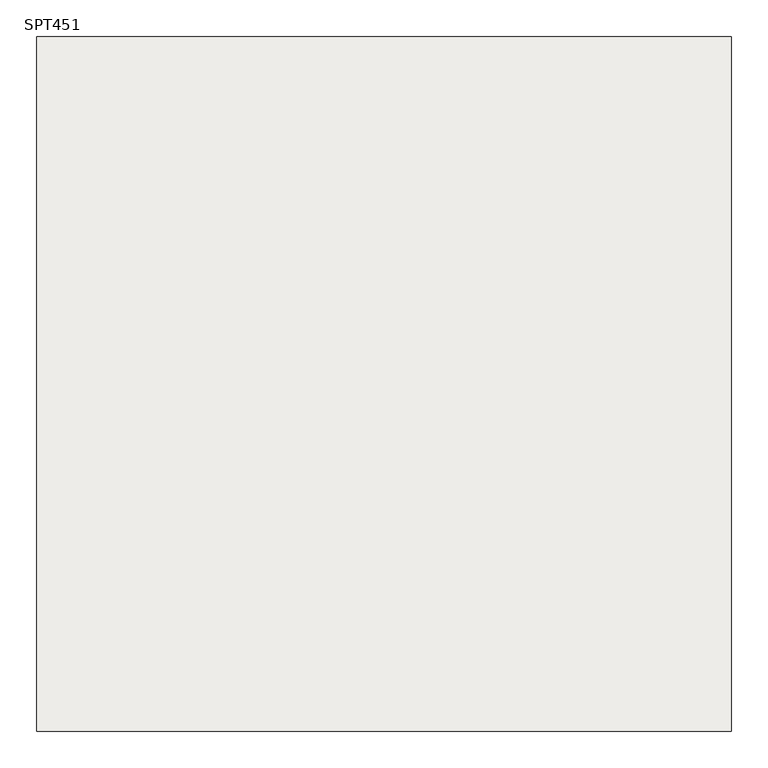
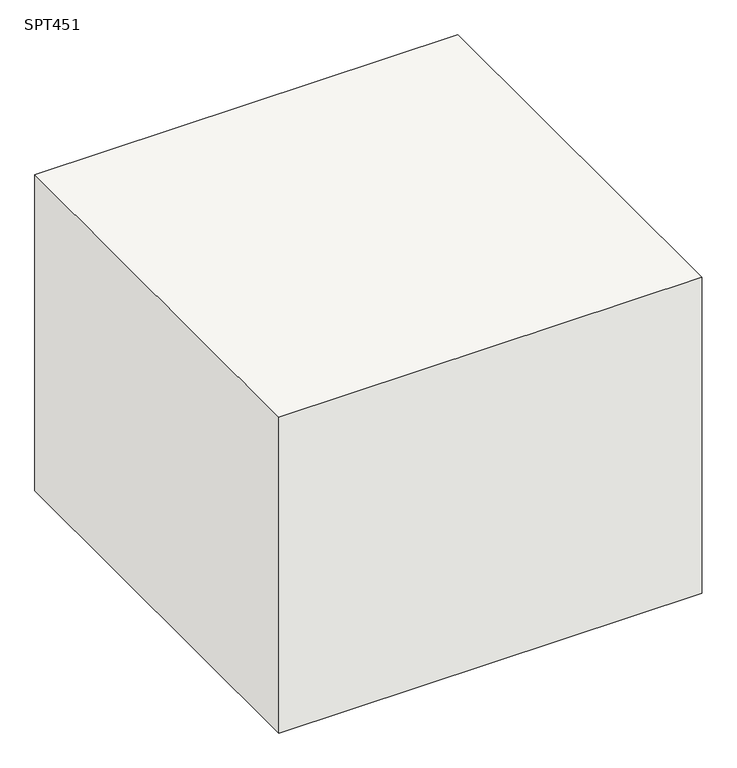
"""IFC4 building model written with IfcOpenShell, lengths in millimetres: slab geometry, 柱形_SPT : SPT451."""

import ifcopenshell
import ifcopenshell.guid

model = None  # the IFC model being written
_history = None  # IfcOwnerHistory: only IFC2X3 demands one
_inside = {}  # id of a spatial element -> (the spatial element, [elements in it])
_under = {}  # id of a project, library or spatial element -> (it, [spatial elements below it])
_declared = {}  # id of a project -> (the project, [libraries it declares])
_typed = {}  # id of a type object -> (the type object, [elements of that type])
_made_of = {}  # id of a material, layer set ... -> (it, [elements and type objects made of it])


def new_model(schema):
    """Start an empty IFC model of exactly this schema.

    Asked for "IFC4X3", IfcOpenShell would pick the latest addendum, in which some entities
    have other attributes; the version numbers below select the first issue.
    IFC2X3 requires an IfcOwnerHistory on every rooted entity: one is made here for all.
    """
    global model, _history
    if schema == "IFC4X3":
        model = ifcopenshell.file(schema_version=(4, 3, 0, 0))
    else:
        model = ifcopenshell.file(schema=schema)
    _inside.clear()
    _under.clear()
    _declared.clear()
    _typed.clear()
    _made_of.clear()
    _history = None
    if model.schema == "IFC2X3":
        org = make("IfcOrganization", Name="unknown")
        user = make(
            "IfcPersonAndOrganization",
            ThePerson=make("IfcPerson", FamilyName="unknown"),
            TheOrganization=org,
        )
        app = make(
            "IfcApplication",
            ApplicationDeveloper=org,
            Version="unknown",
            ApplicationFullName="unknown",
            ApplicationIdentifier="unknown",
        )
        _history = make(
            "IfcOwnerHistory",
            OwningUser=user,
            OwningApplication=app,
            ChangeAction="ADDED",
            CreationDate=0,
        )
    return model


def make(cls, **values):
    """One entity of the class cls with the attributes given. An attribute that is None is left unset."""
    return model.create_entity(
        cls, **{name: value for name, value in values.items() if value is not None}
    )


def rooted(cls, **values):
    """An entity with a GlobalId (a new one), such as an element, a storey or a relation."""
    return make(cls, GlobalId=ifcopenshell.guid.new(), OwnerHistory=_history, **values)


def si_unit(unit_type, name, prefix=None):
    """IfcSIUnit, for example si_unit("LENGTHUNIT", "METRE", prefix="MILLI")."""
    return make("IfcSIUnit", UnitType=unit_type, Prefix=prefix, Name=name)


def assignment(units):
    """IfcUnitAssignment: the units of a project."""
    return None if units is None else make("IfcUnitAssignment", Units=units)


def point(xyz):
    """IfcCartesianPoint."""
    return None if xyz is None else make("IfcCartesianPoint", Coordinates=xyz)


def direction(xyz):
    """IfcDirection."""
    return None if xyz is None else make("IfcDirection", DirectionRatios=xyz)


def frame(location, z_axis=None, x_axis=None):
    """IfcAxis2Placement3D, a coordinate frame: its origin and axes. An axis left out is left unset."""
    return make(
        "IfcAxis2Placement3D",
        Location=point(location),
        Axis=direction(z_axis),
        RefDirection=direction(x_axis),
    )


def origin():
    """The frame at (0, 0, 0) with its axes left unset."""
    return frame((0.0, 0.0, 0.0))


def place(relative_to, where):
    """IfcLocalPlacement: puts the frame where relative to a parent placement (None: the world)."""
    return make(
        "IfcLocalPlacement", PlacementRelTo=relative_to, RelativePlacement=where
    )


def context(
    kind, dimensions, precision=None, world=None, true_north=None, identifier=None
):
    """IfcGeometricRepresentationContext, for example the 3D "Model" context."""
    return make(
        "IfcGeometricRepresentationContext",
        ContextIdentifier=identifier,
        ContextType=kind,
        CoordinateSpaceDimension=dimensions,
        Precision=precision,
        WorldCoordinateSystem=world,
        TrueNorth=true_north,
    )


def project(units=None, contexts=None):
    """IfcProject with its units and contexts."""
    return rooted(
        "IfcProject",
        Name="project",
        RepresentationContexts=contexts,
        UnitsInContext=assignment(units),
    )


def spatial(cls, under=None, at=None, **own):
    """A site, building, storey or space (cls), placed at a placement, below another one or the project."""
    s = rooted(cls, ObjectPlacement=at, **own)
    if under is not None:
        _under.setdefault(under.id(), (under, []))[1].append(s)
    return s


def polyline(points):
    """IfcPolyline through the points."""
    return make("IfcPolyline", Points=[point(p) for p in points])


def outline(outer, holes=None, kind="AREA"):
    """IfcArbitraryClosedProfileDef: a profile drawn as a closed curve; with holes, ...WithVoids."""
    if holes is None:
        return make("IfcArbitraryClosedProfileDef", ProfileType=kind, OuterCurve=outer)
    return make(
        "IfcArbitraryProfileDefWithVoids",
        ProfileType=kind,
        OuterCurve=outer,
        InnerCurves=holes,
    )


def extrude(swept, where, along, depth):
    """IfcExtrudedAreaSolid: the profile swept, set in the frame where, extruded along a direction by depth."""
    return make(
        "IfcExtrudedAreaSolid",
        SweptArea=swept,
        Position=where,
        ExtrudedDirection=direction(along),
        Depth=depth,
    )


def shape(context_of_items, identifier, shape_type, items):
    """IfcShapeRepresentation: the items that make up one representation, for example the "Body"."""
    return make(
        "IfcShapeRepresentation",
        ContextOfItems=context_of_items,
        RepresentationIdentifier=identifier,
        RepresentationType=shape_type,
        Items=items,
    )


def source(mapping_origin, context_of_items, identifier, shape_type, items):
    """IfcRepresentationMap: a shape defined once, which mapped items show again and again."""
    return make(
        "IfcRepresentationMap",
        MappingOrigin=mapping_origin,
        MappedRepresentation=shape(context_of_items, identifier, shape_type, items),
    )


def transform(
    local_origin,
    x_axis=None,
    y_axis=None,
    z_axis=None,
    scale=None,
    scale2=None,
    scale3=None,
    uniform=True,
):
    """IfcCartesianTransformationOperator3D, or its non-uniform kind. x_axis, y_axis, z_axis: its Axis1, 2, 3."""
    if uniform:
        return make(
            "IfcCartesianTransformationOperator3D",
            Axis1=direction(x_axis),
            Axis2=direction(y_axis),
            LocalOrigin=point(local_origin),
            Scale=scale,
            Axis3=direction(z_axis),
        )
    return make(
        "IfcCartesianTransformationOperator3DnonUniform",
        Axis1=direction(x_axis),
        Axis2=direction(y_axis),
        LocalOrigin=point(local_origin),
        Scale=scale,
        Axis3=direction(z_axis),
        Scale2=scale2,
        Scale3=scale3,
    )


def mapped(mapping_source, mapping_target):
    """IfcMappedItem: shows the shape of a source again, moved by a transform."""
    return make(
        "IfcMappedItem", MappingSource=mapping_source, MappingTarget=mapping_target
    )


def made_of(thing, what):
    """Note that an element or type object is made of a material, layer set ...; save() writes the relation."""
    if what is not None:
        _made_of.setdefault(what.id(), (what, []))[1].append(thing)
    return thing


def element(
    cls,
    number,
    at=None,
    inside=None,
    cuts=None,
    type_object=None,
    material=None,
    context=None,
    identifier="Body",
    shape_type=None,
    held_by="IfcProductDefinitionShape",
    body=None,
    shapes=None,
    **own,
):
    """One element of the class cls, such as IfcWall. Its Tag is "e" and its number.

    at: its placement. inside: the storey or other place that contains it. cuts: it is an
    opening in that element (IfcRelVoidsElement). A single representation is given by context,
    identifier, shape_type and body (its items); several are given by shapes. held_by: the class
    of the entity that holds the representations. save() writes the other relations.
    """
    e = rooted(cls, Tag="e%d" % number, ObjectPlacement=at, **own)
    if body is not None:
        shapes = [shape(context, identifier, shape_type, body)]
    if shapes is not None:
        e.Representation = make(held_by, Representations=shapes)
    if inside is not None:
        _inside.setdefault(inside.id(), (inside, []))[1].append(e)
    if cuts is not None:
        rooted(
            "IfcRelVoidsElement", RelatingBuildingElement=cuts, RelatedOpeningElement=e
        )
    if type_object is not None:
        _typed.setdefault(type_object.id(), (type_object, []))[1].append(e)
    return made_of(e, material)


def aggregate(whole, parts):
    """IfcRelAggregates: a whole, such as a stair, and the parts it consists of."""
    return rooted("IfcRelAggregates", RelatingObject=whole, RelatedObjects=parts)


def save(model, path):
    """Write the relations noted so far, then the file.

    IfcRelAggregates (storeys below a building ...), IfcRelContainedInSpatialStructure (elements
    in a storey), IfcRelDefinesByType, IfcRelAssociatesMaterial and IfcRelDeclares: one each for
    every whole, place, type object, material and project.
    """
    for whole, parts in _under.values():
        aggregate(whole, parts)
    for where, things in _inside.values():
        rooted(
            "IfcRelContainedInSpatialStructure",
            RelatedElements=things,
            RelatingStructure=where,
        )
    for kind, things in _typed.values():
        rooted("IfcRelDefinesByType", RelatedObjects=things, RelatingType=kind)
    for what, things in _made_of.values():
        rooted("IfcRelAssociatesMaterial", RelatedObjects=things, RelatingMaterial=what)
    for by, libraries in _declared.values():
        rooted("IfcRelDeclares", RelatingContext=by, RelatedDefinitions=libraries)
    model.write(path)


def spt451_f702c639(model_context):
    return source(origin(), model_context, "Body", "SweptSolid", [
        extrude(outline(polyline([(475.0, 475.0), (475.0, -475.0), (-475.0, -475.0), (-475.0, 475.0), (475.0, 475.0)])), frame((0.0, 0.0, -750.0), z_axis=(0.0, 0.0, 1.0), x_axis=(1.0, 0.0, 0.0)), (0.0, 0.0, 1.0), 750.0),
    ])


if __name__ == "__main__":
    model = new_model("IFC4")
    model_context = context("Model", 3, world=origin())
    ifc_project = project(units=[si_unit("LENGTHUNIT", "METRE", prefix="MILLI")], contexts=[model_context])
    site = spatial("IfcSite", under=ifc_project)
    building = spatial("IfcBuilding", under=site)
    placement = place(None, origin())
    spt451_shape = spt451_f702c639(model_context)
    element("IfcSlab", 1, ObjectType="柱形_SPT : SPT451", at=placement, inside=building, context=model_context, shape_type="MappedRepresentation", body=[
        mapped(spt451_shape, transform((0.0, 0.0, 0.0), x_axis=(1.0, 0.0, 0.0), y_axis=(0.0, 1.0, 0.0), z_axis=(0.0, 0.0, 1.0))),
    ])
    save(model, "model.ifc")
